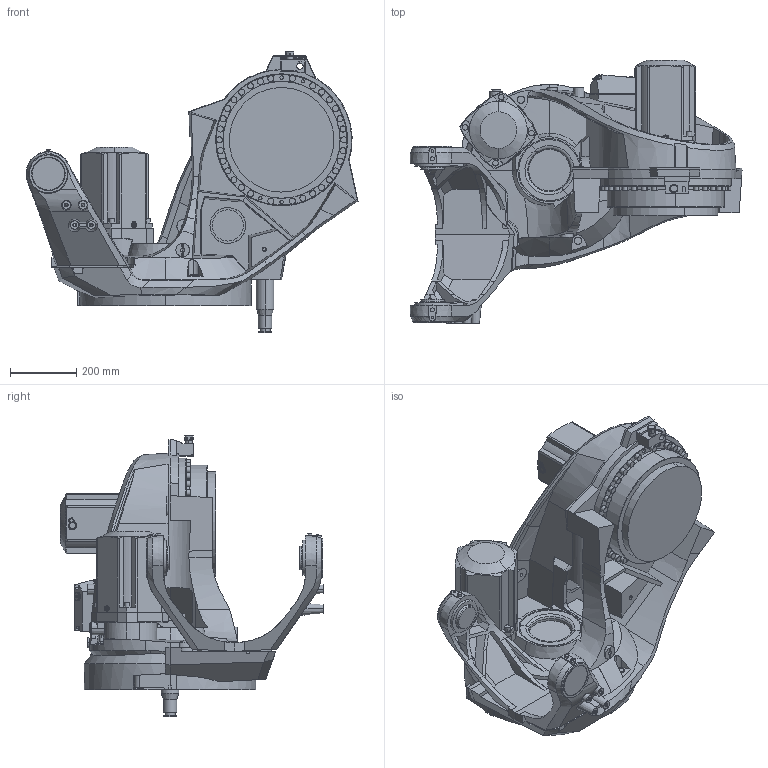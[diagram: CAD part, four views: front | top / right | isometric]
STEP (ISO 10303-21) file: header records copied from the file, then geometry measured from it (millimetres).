
FILE_DESCRIPTION (( 'STEP AP214' ), '1' );
FILE_NAME ('IRB6760_All_OC_00_LINK01_CAD.step', '2025-09-30T13:15:28', ( '' ), ( '' ), 'SwSTEP 2.0', 'SolidWorks 2024', '' );
FILE_SCHEMA (( 'AUTOMOTIVE_DESIGN' ));
Length unit declared in the file: millimetre
Products named in the file (1): IRB6760_All_OC_00_LINK01_CAD
Bounding box: 999.93 x 793.6 x 849.3 mm (x, y, z)
Volume: 84641272.4 mm3; surface area: 3233171 mm2
Topology: 1 solids, 1 shells, 1743 faces, 4572 edges, 2935 vertices
Faces by surface type: plane 733, cone 349, cylinder 343, bspline 221, torus 93, sphere 4
Entity records: 103816 total; most frequent: CARTESIAN_POINT 44236, ORIENTED_EDGE 9100, DIRECTION 7606, EDGE_CURVE 4550, VERTEX_POINT 2935, AXIS2_PLACEMENT_3D 2840, LINE 1926, VECTOR 1926
